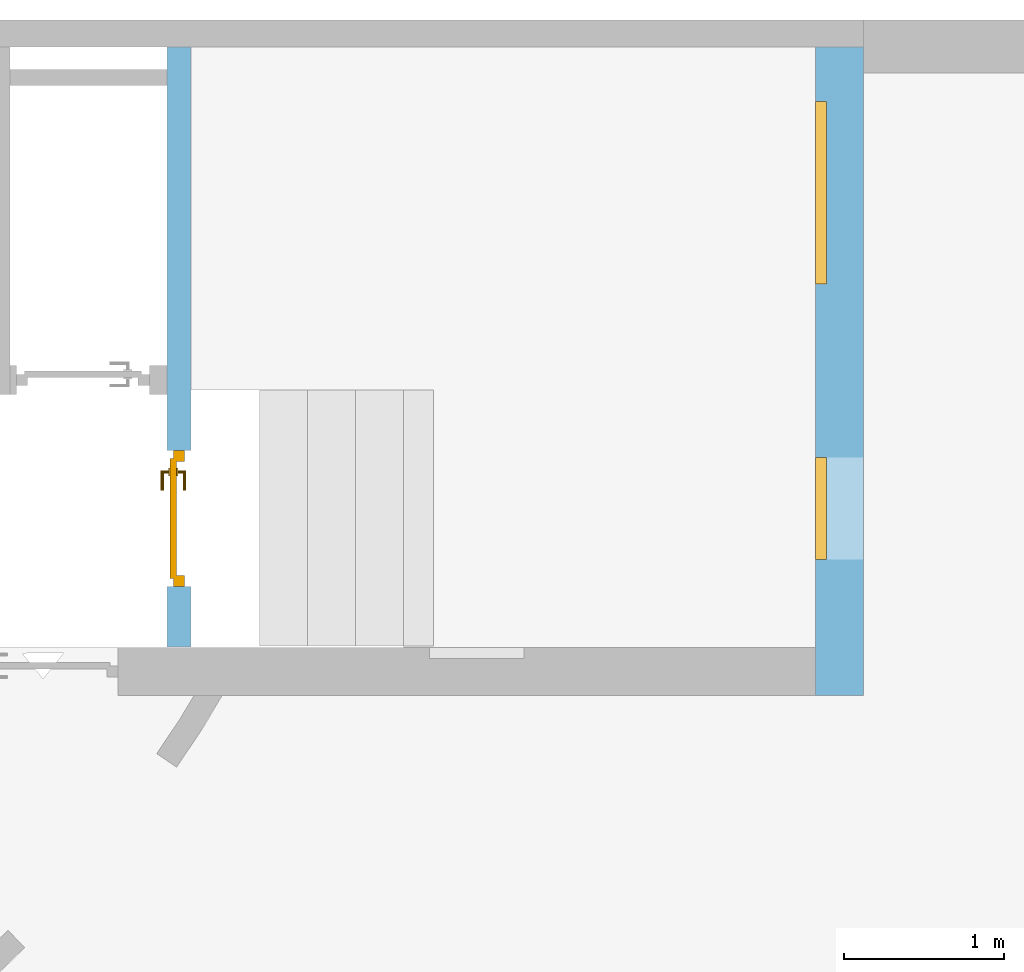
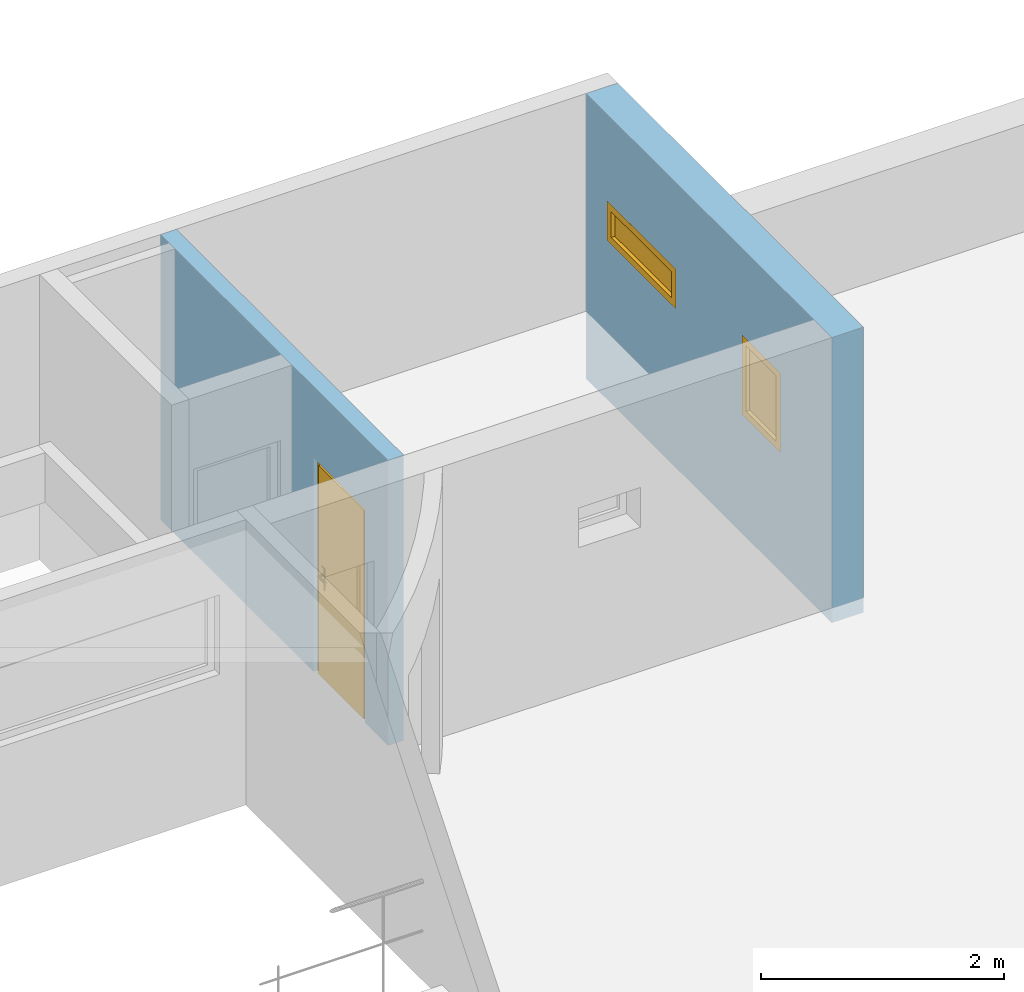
"""IFC4 building model written with IfcOpenShell, lengths in metres."""

from ifc_helpers import new_model, entity, si_unit, converted_unit, derived_unit, frame, frame_2d, origin, origin_with_axes, place, context, subcontext, project, spatial, polyline, rectangle, outline, extrude, closed_shell, open_shell, faceted_brep, surface_model, source, transform, mapped, material, layer, layer_set, layer_usage, element, fill, save


model = new_model("IFC4")

# Units and contexts
model_context = context("Model", 3, precision=1e-05, world=origin())
body_context = subcontext(model_context, "Body", "Model", "MODEL_VIEW")
ifc_project = project(units=[si_unit("LENGTHUNIT", "METRE"), si_unit("AREAUNIT", "SQUARE_METRE"), si_unit("VOLUMEUNIT", "CUBIC_METRE"), si_unit("MASSUNIT", "GRAM", prefix="KILO"), converted_unit("PLANEANGLEUNIT", "DEGREE", entity("IfcPlaneAngleMeasure", 0.0174532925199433), si_unit("PLANEANGLEUNIT", "RADIAN"), dimensions=[0, 0, 0, 0, 0, 0, 0]), derived_unit("THERMALTRANSMITTANCEUNIT", [(si_unit("POWERUNIT", "WATT"), 1), (si_unit("THERMODYNAMICTEMPERATUREUNIT", "KELVIN"), -1), (si_unit("LENGTHUNIT", "METRE"), -2)]), derived_unit("VOLUMETRICFLOWRATEUNIT", [(si_unit("LENGTHUNIT", "METRE"), 3), (converted_unit("TIMEUNIT", "hour", entity("IfcTimeMeasure", 3600.0), si_unit("TIMEUNIT", "SECOND"), dimensions=[0, 0, 1, 0, 0, 0, 0]), -1), (si_unit("LENGTHUNIT", "METRE"), -1)])], contexts=[model_context])

# Building, storeys
building_placement = place(None, origin())
building = spatial("IfcBuilding", under=ifc_project, at=building_placement, Name="HABITATGE PLURIFAMILIAR", CompositionType="ELEMENT")
storey_1_placement = place(building_placement, frame((0.0, 0.0, 21.2)))
storey_1 = spatial("IfcBuildingStorey", under=building, at=storey_1_placement, Name="PLANTA SOTACOBERTA", CompositionType="ELEMENT", Elevation=21.2)
storey_2_placement = place(storey_1_placement, origin())
storey_2 = spatial("IfcBuildingStorey", under=storey_1, at=storey_2_placement, Name="NOU", CompositionType="PARTIAL")

# Wall, openings, windows
ifc_material_1 = material()
ifc_layer_1 = layer(ifc_material_1, 0.3)
ifc_layer_set_1 = layer_set([ifc_layer_1])
ifc_layer_usage_1 = layer_usage(ifc_layer_set_1, "AXIS2", "POSITIVE", 0.0)
wall_1_placement = place(storey_2_placement, frame((420.976931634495, 28.05824790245, 0.0), z_axis=(0.0, 0.0, 1.0), x_axis=(0.0, -1.0, 0.0)))
wall_1 = element("IfcWall", 1, at=wall_1_placement, inside=storey_2, material=ifc_layer_usage_1, Name="Mur PSC", context=body_context, shape_type="SweptSolid", body=[
    extrude(rectangle(XDim=4.04865640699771, YDim=0.3, at=frame_2d((2.02432820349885, 0.15), x_axis=(1.0, 0.0))), origin_with_axes(), (0.0, 0.0, 1.0), 2.87),
])
opening_1_placement = place(wall_1_placement, frame((2.5630564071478, 0.0, 1.2), z_axis=(0.0, 1.0, 0.0), x_axis=(0.0, 0.0, 1.0)))
opening_1 = element("IfcOpeningElement", 2, at=opening_1_placement, cuts=wall_1, Name="Vano finestra PSC", ObjectType="Opening", context=body_context, shape_type="SweptSolid", body=[
    extrude(outline(polyline([(0.8, 0.635599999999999), (0.8, 0.0), (0.0, 0.0), (0.0, 0.635599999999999), (0.8, 0.635599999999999)])), origin_with_axes(), (0.0, 0.0, 1.0), 0.3),
])
opening_2_placement = place(wall_1_placement, frame((0.340243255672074, 0.0, 1.6), z_axis=(0.0, 1.0, 0.0), x_axis=(0.0, 0.0, 1.0)))
opening_2 = element("IfcOpeningElement", 3, at=opening_2_placement, cuts=wall_1, Name="Vano finestra PSC", ObjectType="Opening", context=body_context, shape_type="SweptSolid", body=[
    extrude(outline(polyline([(0.4, 1.1388089), (0.4, 0.0), (0.0, 0.0), (0.0, 1.1388089), (0.4, 1.1388089)])), origin_with_axes(), (0.0, 0.0, 1.0), 0.3),
])
shared_shape_1 = source(origin_with_axes(), body_context, "Body", "SurfaceModel", [
    surface_model("IfcShellBasedSurfaceModel", [(0.635599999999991, 0.0, 0.8), (0.635599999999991, 0.0, 0.0), (0.565599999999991, 0.0, 0.0), (0.565599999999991, 0.0, 0.8), (0.635599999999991, 0.0700000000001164, 0.0), (0.635599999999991, 0.0700000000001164, 0.8), (0.565599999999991, 0.0700000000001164, 0.8), (0.565599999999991, 0.0700000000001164, 0.0)], [closed_shell([[[0, 1, 2, 3]], [[4, 5, 6, 7]], [[1, 0, 5, 4]], [[2, 1, 4, 7]], [[3, 2, 7, 6]], [[0, 3, 6, 5]]], orient=[[False], [False], [False], [False], [False], [False]])]),
    surface_model("IfcShellBasedSurfaceModel", [(0.0699999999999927, 0.0, 0.8), (0.0699999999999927, 0.0, 0.0), (0.0, 0.0, 0.0), (0.0, 0.0, 0.8), (0.0699999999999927, 0.0700000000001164, 0.0), (0.0699999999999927, 0.0700000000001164, 0.8), (0.0, 0.0700000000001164, 0.8), (0.0, 0.0700000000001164, 0.0)], [closed_shell([[[0, 1, 2, 3]], [[4, 5, 6, 7]], [[1, 0, 5, 4]], [[2, 1, 4, 7]], [[3, 2, 7, 6]], [[0, 3, 6, 5]]], orient=[[False], [False], [False], [False], [False], [False]])]),
    surface_model("IfcShellBasedSurfaceModel", [(0.565599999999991, 0.0, 0.07), (0.565599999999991, 0.0, 0.0), (0.0699999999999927, 0.0, 0.0), (0.0699999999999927, 0.0, 0.07), (0.565599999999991, 0.0700000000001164, 0.0), (0.565599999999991, 0.0700000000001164, 0.07), (0.0699999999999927, 0.0700000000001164, 0.07), (0.0699999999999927, 0.0700000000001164, 0.0)], [closed_shell([[[0, 1, 2, 3]], [[4, 5, 6, 7]], [[1, 0, 5, 4]], [[2, 1, 4, 7]], [[3, 2, 7, 6]], [[0, 3, 6, 5]]], orient=[[False], [False], [False], [False], [False], [False]])]),
    surface_model("IfcShellBasedSurfaceModel", [(0.565599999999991, 0.0, 0.8), (0.565599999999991, 0.0, 0.73), (0.0699999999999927, 0.0, 0.73), (0.0699999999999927, 0.0, 0.8), (0.565599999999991, 0.0700000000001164, 0.73), (0.565599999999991, 0.0700000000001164, 0.8), (0.0699999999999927, 0.0700000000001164, 0.8), (0.0699999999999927, 0.0700000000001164, 0.73)], [closed_shell([[[0, 1, 2, 3]], [[4, 5, 6, 7]], [[1, 0, 5, 4]], [[2, 1, 4, 7]], [[3, 2, 7, 6]], [[0, 3, 6, 5]]], orient=[[False], [False], [False], [False], [False], [False]])]),
    surface_model("IfcShellBasedSurfaceModel", [(0.565599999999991, 0.0350000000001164, 0.07), (0.0699999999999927, 0.0350000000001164, 0.07), (0.0699999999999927, 0.0350000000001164, 0.73), (0.565599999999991, 0.0350000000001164, 0.73)], [open_shell([[[0, 1, 2, 3]]], orient=[[False]])]),
])
window_1_placement = place(opening_1_placement, frame((0.0, 0.635599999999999, 0.07), z_axis=(1.0, 0.0, 0.0), x_axis=(0.0, -1.0, 0.0)))
window_1 = element("IfcWindow", 4, at=window_1_placement, inside=storey_2, Name="Finestra PSC", OverallHeight=0.8, OverallWidth=0.6356, PartitioningType="USERDEFINED", PredefinedType="WINDOW", context=body_context, shape_type="MappedRepresentation", body=[
    mapped(shared_shape_1, transform((0.0, 0.0, 0.0), x_axis=(1.0, 0.0, 0.0), y_axis=(0.0, 1.0, 0.0), z_axis=(0.0, 0.0, 1.0), scale=1.0)),
])
fill(opening_1, window_1)
shared_shape_2 = source(origin_with_axes(), body_context, "Body", "SurfaceModel", [
    surface_model("IfcShellBasedSurfaceModel", [(1.13880889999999, 0.0, 0.4), (1.13880889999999, 0.0, 0.0), (1.06880890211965, 0.0, 0.0), (1.06880890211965, 0.0, 0.4), (1.13880889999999, 0.0700000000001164, 0.0), (1.13880889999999, 0.0700000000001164, 0.4), (1.06880890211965, 0.0700000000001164, 0.4), (1.06880890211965, 0.0700000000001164, 0.0)], [closed_shell([[[0, 1, 2, 3]], [[4, 5, 6, 7]], [[1, 0, 5, 4]], [[2, 1, 4, 7]], [[3, 2, 7, 6]], [[0, 3, 6, 5]]], orient=[[False], [False], [False], [False], [False], [False]])]),
    surface_model("IfcShellBasedSurfaceModel", [(0.0699999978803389, 0.0, 0.4), (0.0699999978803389, 0.0, 0.0), (0.0, 0.0, 0.0), (0.0, 0.0, 0.4), (0.0699999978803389, 0.0700000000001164, 0.0), (0.0699999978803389, 0.0700000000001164, 0.4), (0.0, 0.0700000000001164, 0.4), (0.0, 0.0700000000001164, 0.0)], [closed_shell([[[0, 1, 2, 3]], [[4, 5, 6, 7]], [[1, 0, 5, 4]], [[2, 1, 4, 7]], [[3, 2, 7, 6]], [[0, 3, 6, 5]]], orient=[[False], [False], [False], [False], [False], [False]])]),
    surface_model("IfcShellBasedSurfaceModel", [(1.06880890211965, 0.0, 0.07), (1.06880890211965, 0.0, 0.0), (0.0699999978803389, 0.0, 0.0), (0.0699999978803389, 0.0, 0.07), (1.06880890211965, 0.0700000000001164, 0.0), (1.06880890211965, 0.0700000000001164, 0.07), (0.0699999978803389, 0.0700000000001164, 0.07), (0.0699999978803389, 0.0700000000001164, 0.0)], [closed_shell([[[0, 1, 2, 3]], [[4, 5, 6, 7]], [[1, 0, 5, 4]], [[2, 1, 4, 7]], [[3, 2, 7, 6]], [[0, 3, 6, 5]]], orient=[[False], [False], [False], [False], [False], [False]])]),
    surface_model("IfcShellBasedSurfaceModel", [(1.06880890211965, 0.0, 0.4), (1.06880890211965, 0.0, 0.33), (0.0699999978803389, 0.0, 0.33), (0.0699999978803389, 0.0, 0.4), (1.06880890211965, 0.0700000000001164, 0.33), (1.06880890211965, 0.0700000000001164, 0.4), (0.0699999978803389, 0.0700000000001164, 0.4), (0.0699999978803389, 0.0700000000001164, 0.33)], [closed_shell([[[0, 1, 2, 3]], [[4, 5, 6, 7]], [[1, 0, 5, 4]], [[2, 1, 4, 7]], [[3, 2, 7, 6]], [[0, 3, 6, 5]]], orient=[[False], [False], [False], [False], [False], [False]])]),
    surface_model("IfcShellBasedSurfaceModel", [(1.06880890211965, 0.0350000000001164, 0.07), (0.0699999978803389, 0.0350000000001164, 0.07), (0.0699999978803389, 0.0350000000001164, 0.33), (1.06880890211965, 0.0350000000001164, 0.33)], [open_shell([[[0, 1, 2, 3]]], orient=[[False]])]),
])
window_2_placement = place(opening_2_placement, frame((0.0, 1.1388089, 0.07), z_axis=(1.0, 0.0, 0.0), x_axis=(0.0, -1.0, 0.0)))
window_2 = element("IfcWindow", 5, at=window_2_placement, inside=storey_2, Name="Finestra PSC", OverallHeight=0.4, OverallWidth=1.13881, PartitioningType="USERDEFINED", PredefinedType="WINDOW", context=body_context, shape_type="MappedRepresentation", body=[
    mapped(shared_shape_2, transform((0.0, 0.0, 0.0), x_axis=(1.0, 0.0, 0.0), y_axis=(0.0, 1.0, 0.0), z_axis=(0.0, 0.0, 1.0), scale=1.0)),
])
fill(opening_2, window_2)

# Wall, opening, door
ifc_material_2 = material()
ifc_layer_2 = layer(ifc_material_2, 0.15)
ifc_layer_set_2 = layer_set([ifc_layer_2])
ifc_layer_usage_2 = layer_usage(ifc_layer_set_2, "AXIS2", "POSITIVE", 0.0)
wall_2_placement = place(storey_2_placement, frame((417.076931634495, 24.310998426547, 0.0), z_axis=(0.0, 0.0, 1.0), x_axis=(0.0, 1.0, 0.0)))
wall_2 = element("IfcWall", 6, at=wall_2_placement, inside=storey_2, material=ifc_layer_usage_2, Name="Evans PSC", context=body_context, shape_type="SweptSolid", body=[
    extrude(outline(polyline([(0.0, -0.15), (3.74724947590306, -0.15), (3.74724947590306, 0.0), (3.60859306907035, 0.0), (3.60859306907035, -0.000884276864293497), (3.50859306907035, -0.000884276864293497), (3.50859306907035, 0.0), (0.0, 0.0), (0.0, -0.15)])), frame((0.0, 0.15, 0.0), z_axis=(0.0, 0.0, 1.0), x_axis=(1.0, 0.0, 0.0)), (0.0, 0.0, 1.0), 2.87),
])
opening_3_placement = place(wall_2_placement, frame((1.2285930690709, 0.15, 0.0), z_axis=(0.0, -1.0, 0.0), x_axis=(0.0, 0.0, 1.0)))
opening_3 = element("IfcOpeningElement", 7, at=opening_3_placement, cuts=wall_2, Name="Vano porta PSC", ObjectType="Opening", context=body_context, shape_type="SweptSolid", body=[
    extrude(outline(polyline([(2.15, 0.850000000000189), (2.15, 0.0), (0.0, 0.0), (0.0, 0.850000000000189), (2.15, 0.850000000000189)])), origin_with_axes(), (0.0, 0.0, 1.0), 0.15),
])
shared_shape_3 = source(origin_with_axes(), body_context, "Body", "Brep", [
    faceted_brep([(0.850000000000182, 0.0700000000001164, 2.15), (0.780000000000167, 0.0700000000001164, 2.15), (0.780000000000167, 0.0700000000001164, 0.0), (0.850000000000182, 0.0700000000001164, 0.0), (0.850000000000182, 0.0, 0.0), (0.780000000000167, 0.0, 0.0), (0.780000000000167, 0.0, 2.15), (0.850000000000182, 0.0, 2.15)], [[[0, 1, 2, 3]], [[4, 5, 6, 7]], [[3, 4, 7, 0]], [[2, 5, 4, 3]], [[1, 6, 5, 2]], [[0, 7, 6, 1]]], orient=[[False], [False], [False], [False], [False], [False]]),
    faceted_brep([(0.0700000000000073, 0.0700000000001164, 2.15), (0.0, 0.0700000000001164, 2.15), (0.0, 0.0700000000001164, 0.0), (0.0700000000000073, 0.0700000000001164, 0.0), (0.0700000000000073, 0.0, 0.0), (0.0, 0.0, 0.0), (0.0, 0.0, 2.15), (0.0700000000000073, 0.0, 2.15)], [[[0, 1, 2, 3]], [[4, 5, 6, 7]], [[3, 4, 7, 0]], [[2, 5, 4, 3]], [[1, 6, 5, 2]], [[0, 7, 6, 1]]], orient=[[False], [False], [False], [False], [False], [False]]),
    faceted_brep([(0.780000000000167, 0.0700000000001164, 2.15), (0.0700000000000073, 0.0700000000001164, 2.15), (0.0700000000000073, 0.0700000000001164, 2.08), (0.780000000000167, 0.0700000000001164, 2.08), (0.780000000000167, 0.0, 2.08), (0.0700000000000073, 0.0, 2.08), (0.0700000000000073, 0.0, 2.15), (0.780000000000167, 0.0, 2.15)], [[[0, 1, 2, 3]], [[4, 5, 6, 7]], [[3, 4, 7, 0]], [[2, 5, 4, 3]], [[1, 6, 5, 2]], [[0, 7, 6, 1]]], orient=[[False], [False], [False], [False], [False], [False]]),
    faceted_brep([(0.800000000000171, 0.0900000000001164, 2.1), (0.0500000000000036, 0.0900000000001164, 2.1), (0.0500000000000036, 0.0900000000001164, 0.0), (0.800000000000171, 0.0900000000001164, 0.0), (0.800000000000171, 0.0500000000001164, 0.0), (0.0500000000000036, 0.0500000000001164, 0.0), (0.0500000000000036, 0.0500000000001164, 2.1), (0.800000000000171, 0.0500000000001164, 2.1)], [[[0, 1, 2, 3]], [[4, 5, 6, 7]], [[3, 4, 7, 0]], [[2, 5, 4, 3]], [[1, 6, 5, 2]], [[0, 7, 6, 1]]], orient=[[False], [False], [False], [False], [False], [False]]),
    faceted_brep([(0.740000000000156, 0.0500000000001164, 1.125), (0.690000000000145, 0.0500000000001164, 1.125), (0.690000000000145, 0.0500000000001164, 0.91), (0.740000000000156, 0.0500000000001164, 0.91), (0.740000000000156, 0.0400000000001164, 0.91), (0.690000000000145, 0.0400000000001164, 0.91), (0.690000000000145, 0.0400000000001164, 1.125), (0.740000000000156, 0.0400000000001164, 1.125)], [[[0, 1, 2, 3]], [[4, 5, 6, 7]], [[3, 4, 7, 0]], [[2, 5, 4, 3]], [[1, 6, 5, 2]], [[0, 7, 6, 1]]], orient=[[False], [False], [False], [False], [False], [False]]),
    faceted_brep([(0.715000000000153, 0.0400000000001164, 1.06), (0.710000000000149, 0.0400000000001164, 1.05866025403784), (0.706339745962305, 0.0400000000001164, 1.055), (0.705000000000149, 0.0400000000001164, 1.05), (0.706339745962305, 0.0400000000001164, 1.045), (0.710000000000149, 0.0400000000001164, 1.04133974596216), (0.715000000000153, 0.0400000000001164, 1.04), (0.720000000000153, 0.0400000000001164, 1.04133974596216), (0.723660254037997, 0.0400000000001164, 1.045), (0.725000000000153, 0.0400000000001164, 1.05), (0.723660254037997, 0.0400000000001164, 1.055), (0.720000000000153, 0.0400000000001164, 1.05866025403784), (0.720000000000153, -0.00499999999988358, 1.05866025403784), (0.715000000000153, 0.0, 1.06), (0.723660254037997, -0.00866025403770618, 1.055), (0.725000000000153, -0.00999999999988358, 1.05), (0.723660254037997, -0.00866025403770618, 1.045), (0.720000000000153, -0.00499999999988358, 1.04133974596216), (0.715000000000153, 0.0, 1.04), (0.710000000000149, 0.00500000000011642, 1.04133974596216), (0.706339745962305, 0.00866025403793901, 1.045), (0.705000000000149, 0.0100000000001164, 1.05), (0.706339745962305, 0.00866025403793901, 1.055), (0.710000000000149, 0.00500000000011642, 1.05866025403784), (0.600000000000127, 0.0, 1.06), (0.600000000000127, -0.00499999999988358, 1.05866025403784), (0.600000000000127, -0.00866025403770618, 1.055), (0.600000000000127, -0.00999999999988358, 1.05), (0.600000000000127, -0.00866025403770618, 1.045), (0.600000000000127, -0.00499999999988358, 1.04133974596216), (0.600000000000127, 0.0, 1.04), (0.600000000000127, 0.00500000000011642, 1.04133974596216), (0.600000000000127, 0.00866025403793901, 1.045), (0.600000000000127, 0.0100000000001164, 1.05), (0.600000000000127, 0.00866025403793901, 1.055), (0.600000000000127, 0.00500000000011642, 1.05866025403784)], [[[0, 1, 2, 3, 4, 5, 6, 7, 8, 9, 10, 11]], [[0, 11, 12, 13]], [[11, 10, 14, 12]], [[10, 9, 15, 14]], [[9, 8, 16, 15]], [[8, 7, 17, 16]], [[7, 6, 18, 17]], [[6, 5, 19, 18]], [[5, 4, 20, 19]], [[4, 3, 21, 20]], [[3, 2, 22, 21]], [[2, 1, 23, 22]], [[1, 0, 13, 23]], [[24, 25, 26, 27, 28, 29, 30, 31, 32, 33, 34, 35]], [[13, 12, 25, 24]], [[12, 14, 26, 25]], [[14, 15, 27, 26]], [[15, 16, 28, 27]], [[16, 17, 29, 28]], [[17, 18, 30, 29]], [[18, 19, 31, 30]], [[19, 20, 32, 31]], [[20, 21, 33, 32]], [[21, 22, 34, 33]], [[22, 23, 35, 34]], [[23, 13, 24, 35]]], orient=[[False], [False], [False], [False], [False], [False], [False], [False], [False], [False], [False], [False], [False], [False], [False], [False], [False], [False], [False], [False], [False], [False], [False], [False], [False], [False]]),
    faceted_brep([(0.740000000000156, 0.0900000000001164, 1.125), (0.740000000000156, 0.0900000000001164, 0.91), (0.690000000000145, 0.0900000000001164, 0.91), (0.690000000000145, 0.0900000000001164, 1.125), (0.740000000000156, 0.100000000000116, 0.91), (0.740000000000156, 0.100000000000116, 1.125), (0.690000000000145, 0.100000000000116, 1.125), (0.690000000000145, 0.100000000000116, 0.91)], [[[0, 1, 2, 3]], [[4, 5, 6, 7]], [[1, 0, 5, 4]], [[2, 1, 4, 7]], [[3, 2, 7, 6]], [[0, 3, 6, 5]]], orient=[[False], [False], [False], [False], [False], [False]]),
    faceted_brep([(0.715000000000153, 0.100000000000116, 1.06), (0.720000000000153, 0.100000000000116, 1.05866025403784), (0.723660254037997, 0.100000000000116, 1.055), (0.725000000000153, 0.100000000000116, 1.05), (0.723660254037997, 0.100000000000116, 1.045), (0.720000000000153, 0.100000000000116, 1.04133974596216), (0.715000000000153, 0.100000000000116, 1.04), (0.710000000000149, 0.100000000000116, 1.04133974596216), (0.706339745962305, 0.100000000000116, 1.045), (0.705000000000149, 0.100000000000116, 1.05), (0.706339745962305, 0.100000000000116, 1.055), (0.710000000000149, 0.100000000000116, 1.05866025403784), (0.715000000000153, 0.140000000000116, 1.06), (0.720000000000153, 0.145000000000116, 1.05866025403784), (0.723660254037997, 0.148660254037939, 1.055), (0.725000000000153, 0.150000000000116, 1.05), (0.723660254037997, 0.148660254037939, 1.045), (0.720000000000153, 0.145000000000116, 1.04133974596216), (0.715000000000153, 0.140000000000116, 1.04), (0.710000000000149, 0.135000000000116, 1.04133974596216), (0.706339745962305, 0.131339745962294, 1.045), (0.705000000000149, 0.130000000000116, 1.05), (0.706339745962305, 0.131339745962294, 1.055), (0.710000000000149, 0.135000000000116, 1.05866025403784), (0.600000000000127, 0.140000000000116, 1.06), (0.600000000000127, 0.135000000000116, 1.05866025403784), (0.600000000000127, 0.131339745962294, 1.055), (0.600000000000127, 0.130000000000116, 1.05), (0.600000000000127, 0.131339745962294, 1.045), (0.600000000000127, 0.135000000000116, 1.04133974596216), (0.600000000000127, 0.140000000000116, 1.04), (0.600000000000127, 0.145000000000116, 1.04133974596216), (0.600000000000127, 0.148660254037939, 1.045), (0.600000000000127, 0.150000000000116, 1.05), (0.600000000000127, 0.148660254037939, 1.055), (0.600000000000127, 0.145000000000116, 1.05866025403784)], [[[0, 1, 2, 3, 4, 5, 6, 7, 8, 9, 10, 11]], [[0, 12, 13, 1]], [[1, 13, 14, 2]], [[2, 14, 15, 3]], [[3, 15, 16, 4]], [[4, 16, 17, 5]], [[5, 17, 18, 6]], [[6, 18, 19, 7]], [[7, 19, 20, 8]], [[8, 20, 21, 9]], [[9, 21, 22, 10]], [[10, 22, 23, 11]], [[11, 23, 12, 0]], [[24, 25, 26, 27, 28, 29, 30, 31, 32, 33, 34, 35]], [[12, 24, 35, 13]], [[13, 35, 34, 14]], [[14, 34, 33, 15]], [[15, 33, 32, 16]], [[16, 32, 31, 17]], [[17, 31, 30, 18]], [[18, 30, 29, 19]], [[19, 29, 28, 20]], [[20, 28, 27, 21]], [[21, 27, 26, 22]], [[22, 26, 25, 23]], [[23, 25, 24, 12]]], orient=[[False], [False], [False], [False], [False], [False], [False], [False], [False], [False], [False], [False], [False], [False], [False], [False], [False], [False], [False], [False], [False], [False], [False], [False], [False], [False]]),
])
door_placement = place(opening_3_placement, frame((0.0, 0.850000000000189, 0.11), z_axis=(1.0, 0.0, 0.0), x_axis=(0.0, -1.0, 0.0)))
door = element("IfcDoor", 8, at=door_placement, inside=storey_2, Name="Porta PSC", OperationType="USERDEFINED", OverallHeight=2.15, OverallWidth=0.85, PredefinedType="DOOR", context=body_context, shape_type="MappedRepresentation", body=[
    mapped(shared_shape_3, transform((0.0, 0.0, 0.0), x_axis=(1.0, 0.0, 0.0), y_axis=(0.0, 1.0, 0.0), z_axis=(0.0, 0.0, 1.0), scale=1.0)),
])
fill(opening_3, door)

save(model, "model.ifc")
